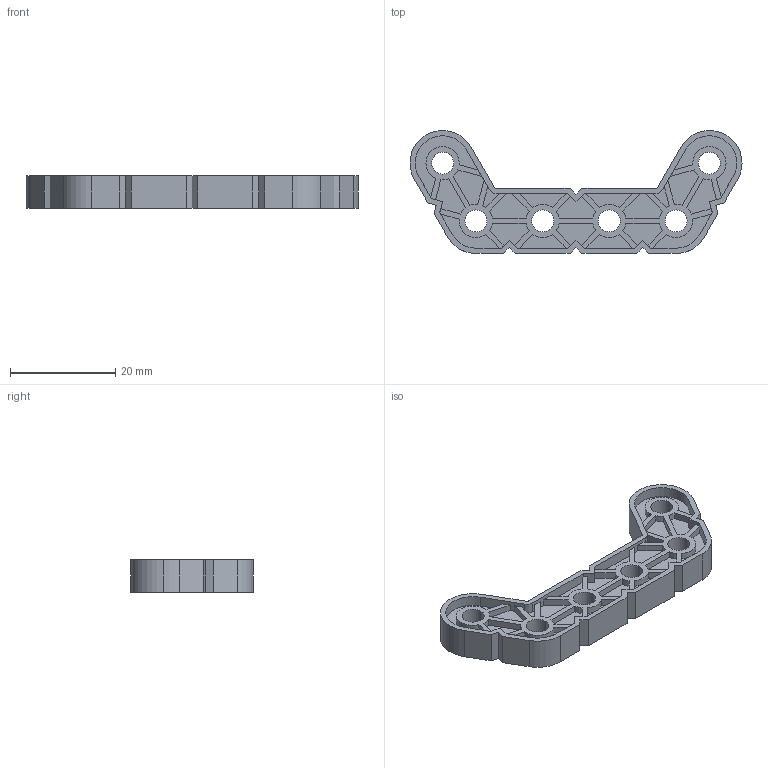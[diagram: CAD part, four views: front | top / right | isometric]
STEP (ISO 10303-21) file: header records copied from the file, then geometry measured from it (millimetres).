
FILE_DESCRIPTION (( 'STEP AP214' ), '1' );
FILE_NAME ('228-2500-1199.STEP', '2021-02-18T20:12:05', ( '' ), ( '' ), 'SwSTEP 2.0', 'SolidWorks 2019', '' );
FILE_SCHEMA (( 'AUTOMOTIVE_DESIGN' ));
Length unit declared in the file: millimetre
Products named in the file (1): 228-2500-1199
Bounding box: 63.2 x 23.4 x 6.1 mm (x, y, z)
Volume: 2878.6 mm3; surface area: 4449.4 mm2
Topology: 1 solids, 1 shells, 319 faces, 945 edges, 630 vertices
Faces by surface type: plane 216, cylinder 103
Entity records: 10703 total; most frequent: CARTESIAN_POINT 1895, ORIENTED_EDGE 1890, DIRECTION 1791, EDGE_CURVE 945, LINE 739, VECTOR 739, VERTEX_POINT 630, AXIS2_PLACEMENT_3D 526
